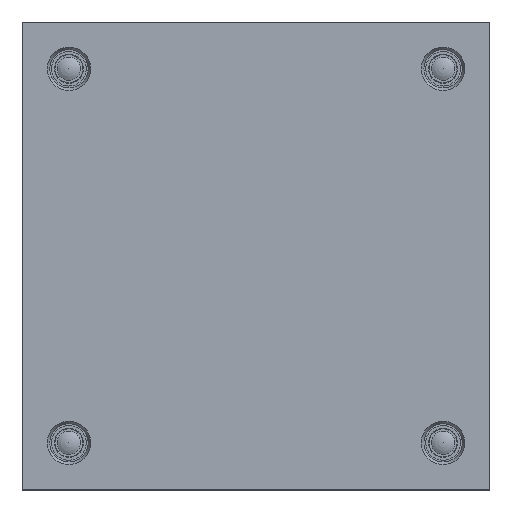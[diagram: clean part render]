
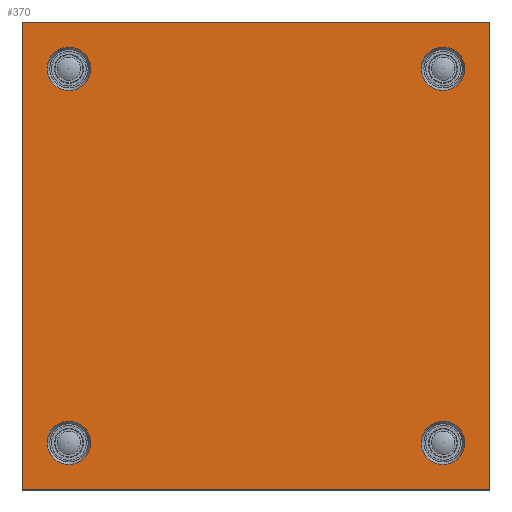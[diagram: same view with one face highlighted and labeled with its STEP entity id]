
A CAD part, top view. The second image highlights one B-rep face of the part: STEP entity #370.
In plain terms, the highlighted planar face has unit normal (0, 0, 1).
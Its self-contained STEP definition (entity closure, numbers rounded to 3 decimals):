
#370 = ADVANCED_FACE( '', ( #856, #857, #858, #859, #860 ), #861, .F. );
#856 = FACE_BOUND( '', #1542, .T. );
#857 = FACE_BOUND( '', #1543, .T. );
#858 = FACE_BOUND( '', #1544, .T. );
#859 = FACE_BOUND( '', #1545, .T. );
#860 = FACE_OUTER_BOUND( '', #1546, .T. );
#861 = PLANE( '', #1547 );
#1542 = EDGE_LOOP( '', ( #2347 ) );
#1543 = EDGE_LOOP( '', ( #2348 ) );
#1544 = EDGE_LOOP( '', ( #2349 ) );
#1545 = EDGE_LOOP( '', ( #2350 ) );
#1546 = EDGE_LOOP( '', ( #2351, #2352, #2353, #2354 ) );
#1547 = AXIS2_PLACEMENT_3D( '', #2355, #2356, #2357 );
#2347 = ORIENTED_EDGE( '', *, *, #3825, .T. );
#2348 = ORIENTED_EDGE( '', *, *, #3863, .T. );
#2349 = ORIENTED_EDGE( '', *, *, #3864, .T. );
#2350 = ORIENTED_EDGE( '', *, *, #3865, .T. );
#2351 = ORIENTED_EDGE( '', *, *, #3866, .T. );
#2352 = ORIENTED_EDGE( '', *, *, #3867, .F. );
#2353 = ORIENTED_EDGE( '', *, *, #3868, .F. );
#2354 = ORIENTED_EDGE( '', *, *, #3743, .T. );
#2355 = CARTESIAN_POINT( '', ( -100., 100., 0. ) );
#2356 = DIRECTION( '', ( 0., 0., -1. ) );
#2357 = DIRECTION( '', ( -1., 0., 0. ) );
#3743 = EDGE_CURVE( '', #4371, #4369, #4372, .T. );
#3825 = EDGE_CURVE( '', #4513, #4513, #4514, .T. );
#3863 = EDGE_CURVE( '', #4576, #4576, #4577, .T. );
#3864 = EDGE_CURVE( '', #4578, #4578, #4579, .T. );
#3865 = EDGE_CURVE( '', #4580, #4580, #4581, .T. );
#3866 = EDGE_CURVE( '', #4369, #4582, #4583, .T. );
#3867 = EDGE_CURVE( '', #4584, #4582, #4585, .T. );
#3868 = EDGE_CURVE( '', #4371, #4584, #4586, .T. );
#4369 = VERTEX_POINT( '', #5282 );
#4371 = VERTEX_POINT( '', #5285 );
#4372 = LINE( '', #5286, #5287 );
#4513 = VERTEX_POINT( '', #5474 );
#4514 = CIRCLE( '', #5475, 9.3 );
#4576 = VERTEX_POINT( '', #5557 );
#4577 = CIRCLE( '', #5558, 9.3 );
#4578 = VERTEX_POINT( '', #5559 );
#4579 = CIRCLE( '', #5560, 9.3 );
#4580 = VERTEX_POINT( '', #5561 );
#4581 = CIRCLE( '', #5562, 9.3 );
#4582 = VERTEX_POINT( '', #5563 );
#4583 = LINE( '', #5564, #5565 );
#4584 = VERTEX_POINT( '', #5566 );
#4585 = LINE( '', #5567, #5568 );
#4586 = LINE( '', #5569, #5570 );
#5282 = CARTESIAN_POINT( '', ( -100., -100., 0. ) );
#5285 = CARTESIAN_POINT( '', ( -100., 100., 0. ) );
#5286 = CARTESIAN_POINT( '', ( -100., 100., 0. ) );
#5287 = VECTOR( '', #6461, 1000. );
#5474 = CARTESIAN_POINT( '', ( -89.3, 80., 0. ) );
#5475 = AXIS2_PLACEMENT_3D( '', #6565, #6566, #6567 );
#5557 = CARTESIAN_POINT( '', ( 70.7, -80., 0. ) );
#5558 = AXIS2_PLACEMENT_3D( '', #6609, #6610, #6611 );
#5559 = CARTESIAN_POINT( '', ( -89.3, -80., 0. ) );
#5560 = AXIS2_PLACEMENT_3D( '', #6612, #6613, #6614 );
#5561 = CARTESIAN_POINT( '', ( 70.7, 80., 0. ) );
#5562 = AXIS2_PLACEMENT_3D( '', #6615, #6616, #6617 );
#5563 = CARTESIAN_POINT( '', ( 100., -100., 0. ) );
#5564 = CARTESIAN_POINT( '', ( -100., -100., 0. ) );
#5565 = VECTOR( '', #6618, 1000. );
#5566 = CARTESIAN_POINT( '', ( 100., 100., 0. ) );
#5567 = CARTESIAN_POINT( '', ( 100., 100., 0. ) );
#5568 = VECTOR( '', #6619, 1000. );
#5569 = CARTESIAN_POINT( '', ( -100., 100., 0. ) );
#5570 = VECTOR( '', #6620, 1000. );
#6461 = DIRECTION( '', ( 0., -1., 0. ) );
#6565 = CARTESIAN_POINT( '', ( -80., 80., 0. ) );
#6566 = DIRECTION( '', ( 0., 0., -1. ) );
#6567 = DIRECTION( '', ( -1., 0., 0. ) );
#6609 = CARTESIAN_POINT( '', ( 80., -80., 0. ) );
#6610 = DIRECTION( '', ( 0., 0., -1. ) );
#6611 = DIRECTION( '', ( -1., 0., 0. ) );
#6612 = CARTESIAN_POINT( '', ( -80., -80., 0. ) );
#6613 = DIRECTION( '', ( 0., 0., -1. ) );
#6614 = DIRECTION( '', ( -1., 0., 0. ) );
#6615 = CARTESIAN_POINT( '', ( 80., 80., 0. ) );
#6616 = DIRECTION( '', ( 0., 0., -1. ) );
#6617 = DIRECTION( '', ( -1., 0., 0. ) );
#6618 = DIRECTION( '', ( 1., 0., 0. ) );
#6619 = DIRECTION( '', ( 0., -1., 0. ) );
#6620 = DIRECTION( '', ( 1., 0., 0. ) );
